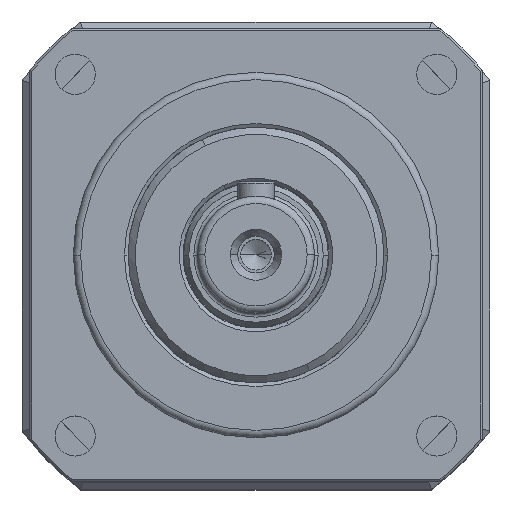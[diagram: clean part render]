
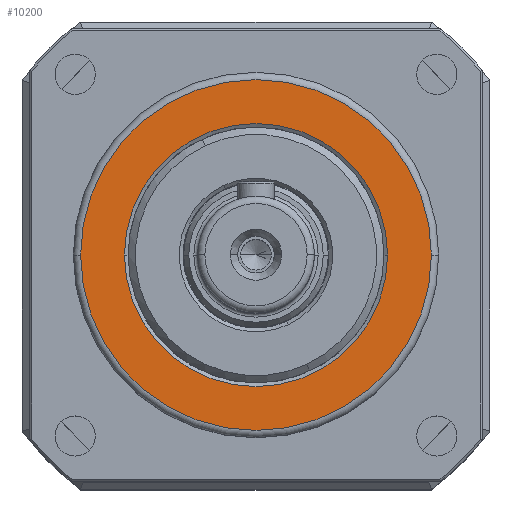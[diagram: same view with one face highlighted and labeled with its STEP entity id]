
A CAD part, top view. The second image highlights one B-rep face of the part: STEP entity #10200.
In plain terms, the highlighted planar face has unit normal (0, 0, 1).
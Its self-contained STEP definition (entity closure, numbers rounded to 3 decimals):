
#479 = ORIENTED_EDGE ( 'NONE', *, *, #9434, .T. ) ;
#725 = CARTESIAN_POINT ( 'NONE',  ( 0., 0., 7. ) ) ;
#860 = VERTEX_POINT ( 'NONE', #16036 ) ;
#2309 = VERTEX_POINT ( 'NONE', #5962 ) ;
#2973 = CARTESIAN_POINT ( 'NONE',  ( -18., 0., 7. ) ) ;
#5962 = CARTESIAN_POINT ( 'NONE',  ( 24., 0., 7. ) ) ;
#6617 = CIRCLE ( 'NONE', #14272, 18. ) ;
#7106 = DIRECTION ( 'NONE',  ( 0., 0., 1. ) ) ;
#7247 = PLANE ( 'NONE',  #10745 ) ;
#7396 = DIRECTION ( 'NONE',  ( 1., 0., 0. ) ) ;
#8735 = FACE_BOUND ( 'NONE', #11710, .T. ) ;
#8879 = CARTESIAN_POINT ( 'NONE',  ( 0., 0., 7. ) ) ;
#9075 = DIRECTION ( 'NONE',  ( 1., 0., 0. ) ) ;
#9271 = DIRECTION ( 'NONE',  ( 0., 0., 1. ) ) ;
#9434 = EDGE_CURVE ( 'NONE', #2309, #18591, #10524, .T. ) ;
#9521 = VERTEX_POINT ( 'NONE', #2973 ) ;
#9892 = AXIS2_PLACEMENT_3D ( 'NONE', #8879, #7106, #7396 ) ;
#10146 = DIRECTION ( 'NONE',  ( 0., 0., 1. ) ) ;
#10200 = ADVANCED_FACE ( 'NONE', ( #8735, #14625 ), #7247, .T. ) ;
#10524 = CIRCLE ( 'NONE', #9892, 24. ) ;
#10618 = EDGE_CURVE ( 'NONE', #9521, #860, #6617, .T. ) ;
#10745 = AXIS2_PLACEMENT_3D ( 'NONE', #19142, #10146, #14826 ) ;
#11293 = EDGE_CURVE ( 'NONE', #860, #9521, #13035, .T. ) ;
#11362 = ORIENTED_EDGE ( 'NONE', *, *, #15231, .T. ) ;
#11492 = CIRCLE ( 'NONE', #13392, 24. ) ;
#11710 = EDGE_LOOP ( 'NONE', ( #15390, #18062 ) ) ;
#12437 = EDGE_LOOP ( 'NONE', ( #479, #11362 ) ) ;
#12939 = DIRECTION ( 'NONE',  ( 0., 0., -1. ) ) ;
#13035 = CIRCLE ( 'NONE', #17503, 18. ) ;
#13392 = AXIS2_PLACEMENT_3D ( 'NONE', #16744, #9271, #9075 ) ;
#14272 = AXIS2_PLACEMENT_3D ( 'NONE', #725, #17920, #19318 ) ;
#14522 = DIRECTION ( 'NONE',  ( 1., 0., 0. ) ) ;
#14625 = FACE_OUTER_BOUND ( 'NONE', #12437, .T. ) ;
#14826 = DIRECTION ( 'NONE',  ( 1., 0., 0. ) ) ;
#15231 = EDGE_CURVE ( 'NONE', #18591, #2309, #11492, .T. ) ;
#15390 = ORIENTED_EDGE ( 'NONE', *, *, #11293, .T. ) ;
#16036 = CARTESIAN_POINT ( 'NONE',  ( 18., 0., 7. ) ) ;
#16141 = CARTESIAN_POINT ( 'NONE',  ( -24., 0., 7. ) ) ;
#16744 = CARTESIAN_POINT ( 'NONE',  ( 0., 0., 7. ) ) ;
#17503 = AXIS2_PLACEMENT_3D ( 'NONE', #17729, #12939, #14522 ) ;
#17729 = CARTESIAN_POINT ( 'NONE',  ( 0., 0., 7. ) ) ;
#17920 = DIRECTION ( 'NONE',  ( 0., 0., -1. ) ) ;
#18062 = ORIENTED_EDGE ( 'NONE', *, *, #10618, .T. ) ;
#18591 = VERTEX_POINT ( 'NONE', #16141 ) ;
#19142 = CARTESIAN_POINT ( 'NONE',  ( 0., 0., 7. ) ) ;
#19318 = DIRECTION ( 'NONE',  ( 1., 0., 0. ) ) ;
